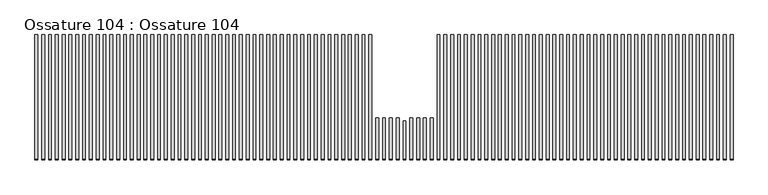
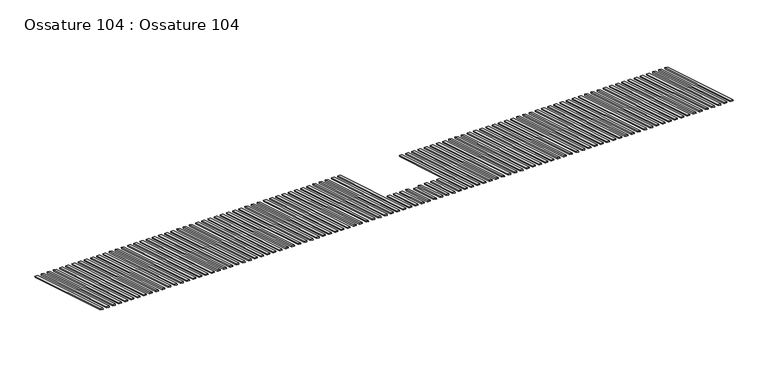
"""IFC4 building model written with IfcOpenShell, lengths in millimetres: beam geometry, Ossature 104 : Ossature 104."""

from ifc_helpers import new_model, si_unit, frame, origin, place, context, project, spatial, polyline, outline, extrude, source, transform, mapped, element, save


def ossature_104_ossature_104_4524d998(model_context):
    return source(origin(), model_context, "Body", "SweptSolid", [
        extrude(outline(polyline([(712.8, 0.0), (712.8, -1518.3275364), (612.8, -1518.3275364), (612.8, 0.0), (712.8, 0.0)])), frame((14593.4466393, 3518.0421613, 9459.0636668), z_axis=(0.0, 0.28734788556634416, 0.9578262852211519), x_axis=(-1.0, 0.0, 0.0)), (0.0, 0.0, 1.0), 40.0),
        extrude(outline(polyline([(712.8, 0.0), (712.8, -1518.3275364), (612.8, -1518.3275364), (612.8, 0.0), (712.8, 0.0)])), frame((14355.6466393, 3518.0421613, 9459.0636668), z_axis=(0.0, 0.28734788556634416, 0.9578262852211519), x_axis=(-1.0, 0.0, 0.0)), (0.0, 0.0, 1.0), 40.0),
        extrude(outline(polyline([(712.8, 0.0), (712.8, -1518.3275364), (612.8, -1518.3275364), (612.8, 0.0), (712.8, 0.0)])), frame((14117.8466393, 3518.0421613, 9459.0636668), z_axis=(0.0, 0.28734788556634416, 0.9578262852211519), x_axis=(-1.0, 0.0, 0.0)), (0.0, 0.0, 1.0), 40.0),
        extrude(outline(polyline([(712.8, 0.0), (712.8, -1518.3275364), (612.8, -1518.3275364), (612.8, 0.0), (712.8, 0.0)])), frame((13880.0466393, 3518.0421613, 9459.0636668), z_axis=(0.0, 0.28734788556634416, 0.9578262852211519), x_axis=(-1.0, 0.0, 0.0)), (0.0, 0.0, 1.0), 40.0),
        extrude(outline(polyline([(712.8, 0.0), (712.8, -1402.7470143), (612.8, -1402.7470143), (612.8, 0.0), (712.8, 0.0)])), frame((13642.2466393, 3518.0421613, 9459.0636668), z_axis=(0.0, 0.28734788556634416, 0.9578262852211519), x_axis=(-1.0, 0.0, 0.0)), (0.0, 0.0, 1.0), 40.0),
        extrude(outline(polyline([(712.8, 0.0), (712.8, -1518.3275364), (612.8, -1518.3275364), (612.8, 0.0), (712.8, 0.0)])), frame((13404.4466393, 3518.0421613, 9459.0636668), z_axis=(0.0, 0.28734788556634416, 0.9578262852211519), x_axis=(-1.0, 0.0, 0.0)), (0.0, 0.0, 1.0), 40.0),
        extrude(outline(polyline([(712.8, 0.0), (712.8, -1518.3275364), (612.8, -1518.3275364), (612.8, 0.0), (712.8, 0.0)])), frame((13166.6466393, 3518.0421613, 9459.0636668), z_axis=(0.0, 0.28734788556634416, 0.9578262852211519), x_axis=(-1.0, 0.0, 0.0)), (0.0, 0.0, 1.0), 40.0),
        extrude(outline(polyline([(712.8, 0.0), (712.8, -1518.3275364), (612.8, -1518.3275364), (612.8, 0.0), (712.8, 0.0)])), frame((12928.8466393, 3518.0421613, 9459.0636668), z_axis=(0.0, 0.28734788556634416, 0.9578262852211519), x_axis=(-1.0, 0.0, 0.0)), (0.0, 0.0, 1.0), 40.0),
        extrude(outline(polyline([(712.8, 0.0), (712.8, -1518.3275364), (612.8, -1518.3275364), (612.8, 0.0), (712.8, 0.0)])), frame((12691.0466393, 3518.0421613, 9459.0636668), z_axis=(0.0, 0.28734788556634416, 0.9578262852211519), x_axis=(-1.0, 0.0, 0.0)), (0.0, 0.0, 1.0), 40.0),
        extrude(outline(polyline([(712.8, 0.0), (712.8, -4549.8855766), (612.8, -4549.8855766), (612.8, 0.0), (712.8, 0.0)])), frame((25056.6466393, 3518.0421613, 9459.0636668), z_axis=(0.0, 0.28734788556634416, 0.9578262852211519), x_axis=(-1.0, 0.0, 0.0)), (0.0, 0.0, 1.0), 40.0),
        extrude(outline(polyline([(712.8, 0.0), (712.8, -4549.8855766), (612.8, -4549.8855766), (612.8, 0.0), (712.8, 0.0)])), frame((24818.8466393, 3518.0421613, 9459.0636668), z_axis=(0.0, 0.28734788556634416, 0.9578262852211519), x_axis=(-1.0, 0.0, 0.0)), (0.0, 0.0, 1.0), 40.0),
        extrude(outline(polyline([(712.8, 0.0), (712.8, -4549.8855766), (612.8, -4549.8855766), (612.8, 0.0), (712.8, 0.0)])), frame((24581.0466393, 3518.0421613, 9459.0636668), z_axis=(0.0, 0.28734788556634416, 0.9578262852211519), x_axis=(-1.0, 0.0, 0.0)), (0.0, 0.0, 1.0), 40.0),
        extrude(outline(polyline([(712.8, 0.0), (712.8, -4549.8855766), (612.8, -4549.8855766), (612.8, 0.0), (712.8, 0.0)])), frame((24343.2466393, 3518.0421613, 9459.0636668), z_axis=(0.0, 0.28734788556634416, 0.9578262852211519), x_axis=(-1.0, 0.0, 0.0)), (0.0, 0.0, 1.0), 40.0),
        extrude(outline(polyline([(712.8, 0.0), (712.8, -4549.8855766), (612.8, -4549.8855766), (612.8, 0.0), (712.8, 0.0)])), frame((24105.4466393, 3518.0421613, 9459.0636668), z_axis=(0.0, 0.28734788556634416, 0.9578262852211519), x_axis=(-1.0, 0.0, 0.0)), (0.0, 0.0, 1.0), 40.0),
        extrude(outline(polyline([(712.8, 0.0), (712.8, -4549.8855766), (612.8, -4549.8855766), (612.8, 0.0), (712.8, 0.0)])), frame((23867.6466393, 3518.0421613, 9459.0636668), z_axis=(0.0, 0.28734788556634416, 0.9578262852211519), x_axis=(-1.0, 0.0, 0.0)), (0.0, 0.0, 1.0), 40.0),
        extrude(outline(polyline([(712.8, 0.0), (712.8, -4549.8855766), (612.8, -4549.8855766), (612.8, 0.0), (712.8, 0.0)])), frame((23629.8466393, 3518.0421613, 9459.0636668), z_axis=(0.0, 0.28734788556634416, 0.9578262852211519), x_axis=(-1.0, 0.0, 0.0)), (0.0, 0.0, 1.0), 40.0),
        extrude(outline(polyline([(712.8, 0.0), (712.8, -4549.8855766), (612.8, -4549.8855766), (612.8, 0.0), (712.8, 0.0)])), frame((23392.0466393, 3518.0421613, 9459.0636668), z_axis=(0.0, 0.28734788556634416, 0.9578262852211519), x_axis=(-1.0, 0.0, 0.0)), (0.0, 0.0, 1.0), 40.0),
        extrude(outline(polyline([(712.8, 0.0), (712.8, -4549.8855766), (612.8, -4549.8855766), (612.8, 0.0), (712.8, 0.0)])), frame((23154.2466393, 3518.0421613, 9459.0636668), z_axis=(0.0, 0.28734788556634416, 0.9578262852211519), x_axis=(-1.0, 0.0, 0.0)), (0.0, 0.0, 1.0), 40.0),
        extrude(outline(polyline([(712.8, 0.0), (712.8, -4549.8855766), (612.8, -4549.8855766), (612.8, 0.0), (712.8, 0.0)])), frame((22916.4466393, 3518.0421613, 9459.0636668), z_axis=(0.0, 0.28734788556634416, 0.9578262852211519), x_axis=(-1.0, 0.0, 0.0)), (0.0, 0.0, 1.0), 40.0),
        extrude(outline(polyline([(712.8, 0.0), (712.8, -4549.8855766), (612.8, -4549.8855766), (612.8, 0.0), (712.8, 0.0)])), frame((22678.6466393, 3518.0421613, 9459.0636668), z_axis=(0.0, 0.28734788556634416, 0.9578262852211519), x_axis=(-1.0, 0.0, 0.0)), (0.0, 0.0, 1.0), 40.0),
        extrude(outline(polyline([(712.8, 0.0), (712.8, -4549.8855766), (612.8, -4549.8855766), (612.8, 0.0), (712.8, 0.0)])), frame((22440.8466393, 3518.0421613, 9459.0636668), z_axis=(0.0, 0.28734788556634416, 0.9578262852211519), x_axis=(-1.0, 0.0, 0.0)), (0.0, 0.0, 1.0), 40.0),
        extrude(outline(polyline([(712.8, 0.0), (712.8, -4549.8855766), (612.8, -4549.8855766), (612.8, 0.0), (712.8, 0.0)])), frame((22203.0466393, 3518.0421613, 9459.0636668), z_axis=(0.0, 0.28734788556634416, 0.9578262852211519), x_axis=(-1.0, 0.0, 0.0)), (0.0, 0.0, 1.0), 40.0),
        extrude(outline(polyline([(712.8, 0.0), (712.8, -4549.8855766), (612.8, -4549.8855766), (612.8, 0.0), (712.8, 0.0)])), frame((21965.2466393, 3518.0421613, 9459.0636668), z_axis=(0.0, 0.28734788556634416, 0.9578262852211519), x_axis=(-1.0, 0.0, 0.0)), (0.0, 0.0, 1.0), 40.0),
        extrude(outline(polyline([(712.8, 0.0), (712.8, -4549.8855766), (612.8, -4549.8855766), (612.8, 0.0), (712.8, 0.0)])), frame((21727.4466393, 3518.0421613, 9459.0636668), z_axis=(0.0, 0.28734788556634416, 0.9578262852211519), x_axis=(-1.0, 0.0, 0.0)), (0.0, 0.0, 1.0), 40.0),
        extrude(outline(polyline([(712.8, 0.0), (712.8, -4549.8855766), (612.8, -4549.8855766), (612.8, 0.0), (712.8, 0.0)])), frame((21489.6466393, 3518.0421613, 9459.0636668), z_axis=(0.0, 0.28734788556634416, 0.9578262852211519), x_axis=(-1.0, 0.0, 0.0)), (0.0, 0.0, 1.0), 40.0),
        extrude(outline(polyline([(712.8, 0.0), (712.8, -4549.8855766), (612.8, -4549.8855766), (612.8, 0.0), (712.8, 0.0)])), frame((21251.8466393, 3518.0421613, 9459.0636668), z_axis=(0.0, 0.28734788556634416, 0.9578262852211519), x_axis=(-1.0, 0.0, 0.0)), (0.0, 0.0, 1.0), 40.0),
        extrude(outline(polyline([(712.8, 0.0), (712.8, -4549.8855766), (612.8, -4549.8855766), (612.8, 0.0), (712.8, 0.0)])), frame((21014.0466393, 3518.0421613, 9459.0636668), z_axis=(0.0, 0.28734788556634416, 0.9578262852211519), x_axis=(-1.0, 0.0, 0.0)), (0.0, 0.0, 1.0), 40.0),
        extrude(outline(polyline([(712.8, 0.0), (712.8, -4549.8855766), (612.8, -4549.8855766), (612.8, 0.0), (712.8, 0.0)])), frame((20776.2466393, 3518.0421613, 9459.0636668), z_axis=(0.0, 0.28734788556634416, 0.9578262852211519), x_axis=(-1.0, 0.0, 0.0)), (0.0, 0.0, 1.0), 40.0),
        extrude(outline(polyline([(712.8, 0.0), (712.8, -4549.8855766), (612.8, -4549.8855766), (612.8, 0.0), (712.8, 0.0)])), frame((20538.4466393, 3518.0421613, 9459.0636668), z_axis=(0.0, 0.28734788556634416, 0.9578262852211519), x_axis=(-1.0, 0.0, 0.0)), (0.0, 0.0, 1.0), 40.0),
        extrude(outline(polyline([(712.8, 0.0), (712.8, -4549.8855766), (612.8, -4549.8855766), (612.8, 0.0), (712.8, 0.0)])), frame((20300.6466393, 3518.0421613, 9459.0636668), z_axis=(0.0, 0.28734788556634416, 0.9578262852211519), x_axis=(-1.0, 0.0, 0.0)), (0.0, 0.0, 1.0), 40.0),
        extrude(outline(polyline([(712.8, 0.0), (712.8, -4549.8855766), (612.8, -4549.8855766), (612.8, 0.0), (712.8, 0.0)])), frame((20062.8466393, 3518.0421613, 9459.0636668), z_axis=(0.0, 0.28734788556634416, 0.9578262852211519), x_axis=(-1.0, 0.0, 0.0)), (0.0, 0.0, 1.0), 40.0),
        extrude(outline(polyline([(712.8, 0.0), (712.8, -4549.8855766), (612.8, -4549.8855766), (612.8, 0.0), (712.8, 0.0)])), frame((19825.0466393, 3518.0421613, 9459.0636668), z_axis=(0.0, 0.28734788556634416, 0.9578262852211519), x_axis=(-1.0, 0.0, 0.0)), (0.0, 0.0, 1.0), 40.0),
        extrude(outline(polyline([(712.8, 0.0), (712.8, -4549.8855766), (612.8, -4549.8855766), (612.8, 0.0), (712.8, 0.0)])), frame((19587.2466393, 3518.0421613, 9459.0636668), z_axis=(0.0, 0.28734788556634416, 0.9578262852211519), x_axis=(-1.0, 0.0, 0.0)), (0.0, 0.0, 1.0), 40.0),
        extrude(outline(polyline([(712.8, 0.0), (712.8, -4549.8855766), (612.8, -4549.8855766), (612.8, 0.0), (712.8, 0.0)])), frame((19349.4466393, 3518.0421613, 9459.0636668), z_axis=(0.0, 0.28734788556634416, 0.9578262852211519), x_axis=(-1.0, 0.0, 0.0)), (0.0, 0.0, 1.0), 40.0),
        extrude(outline(polyline([(712.8, 0.0), (712.8, -4549.8855766), (612.8, -4549.8855766), (612.8, 0.0), (712.8, 0.0)])), frame((19111.6466393, 3518.0421613, 9459.0636668), z_axis=(0.0, 0.28734788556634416, 0.9578262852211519), x_axis=(-1.0, 0.0, 0.0)), (0.0, 0.0, 1.0), 40.0),
        extrude(outline(polyline([(712.8, 0.0), (712.8, -4549.8855766), (612.8, -4549.8855766), (612.8, 0.0), (712.8, 0.0)])), frame((18873.8466393, 3518.0421613, 9459.0636668), z_axis=(0.0, 0.28734788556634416, 0.9578262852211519), x_axis=(-1.0, 0.0, 0.0)), (0.0, 0.0, 1.0), 40.0),
        extrude(outline(polyline([(712.8, 0.0), (712.8, -4549.8855766), (612.8, -4549.8855766), (612.8, 0.0), (712.8, 0.0)])), frame((18636.0466393, 3518.0421613, 9459.0636668), z_axis=(0.0, 0.28734788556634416, 0.9578262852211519), x_axis=(-1.0, 0.0, 0.0)), (0.0, 0.0, 1.0), 40.0),
        extrude(outline(polyline([(712.8, 0.0), (712.8, -4549.8855766), (612.8, -4549.8855766), (612.8, 0.0), (712.8, 0.0)])), frame((18398.2466393, 3518.0421613, 9459.0636668), z_axis=(0.0, 0.28734788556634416, 0.9578262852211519), x_axis=(-1.0, 0.0, 0.0)), (0.0, 0.0, 1.0), 40.0),
        extrude(outline(polyline([(712.8, 0.0), (712.8, -4549.8855766), (612.8, -4549.8855766), (612.8, 0.0), (712.8, 0.0)])), frame((18160.4466393, 3518.0421613, 9459.0636668), z_axis=(0.0, 0.28734788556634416, 0.9578262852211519), x_axis=(-1.0, 0.0, 0.0)), (0.0, 0.0, 1.0), 40.0),
        extrude(outline(polyline([(712.8, 0.0), (712.8, -4549.8855766), (612.8, -4549.8855766), (612.8, 0.0), (712.8, 0.0)])), frame((17922.6466393, 3518.0421613, 9459.0636668), z_axis=(0.0, 0.28734788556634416, 0.9578262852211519), x_axis=(-1.0, 0.0, 0.0)), (0.0, 0.0, 1.0), 40.0),
        extrude(outline(polyline([(712.8, 0.0), (712.8, -4549.8855766), (612.8, -4549.8855766), (612.8, 0.0), (712.8, 0.0)])), frame((17684.8466393, 3518.0421613, 9459.0636668), z_axis=(0.0, 0.28734788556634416, 0.9578262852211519), x_axis=(-1.0, 0.0, 0.0)), (0.0, 0.0, 1.0), 40.0),
        extrude(outline(polyline([(712.8, 0.0), (712.8, -4549.8855766), (612.8, -4549.8855766), (612.8, 0.0), (712.8, 0.0)])), frame((17447.0466393, 3518.0421613, 9459.0636668), z_axis=(0.0, 0.28734788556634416, 0.9578262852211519), x_axis=(-1.0, 0.0, 0.0)), (0.0, 0.0, 1.0), 40.0),
        extrude(outline(polyline([(712.8, 0.0), (712.8, -4549.8855766), (612.8, -4549.8855766), (612.8, 0.0), (712.8, 0.0)])), frame((17209.2466393, 3518.0421613, 9459.0636668), z_axis=(0.0, 0.28734788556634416, 0.9578262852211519), x_axis=(-1.0, 0.0, 0.0)), (0.0, 0.0, 1.0), 40.0),
        extrude(outline(polyline([(712.8, 0.0), (712.8, -4549.8855766), (612.8, -4549.8855766), (612.8, 0.0), (712.8, 0.0)])), frame((16971.4466393, 3518.0421613, 9459.0636668), z_axis=(0.0, 0.28734788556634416, 0.9578262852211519), x_axis=(-1.0, 0.0, 0.0)), (0.0, 0.0, 1.0), 40.0),
        extrude(outline(polyline([(712.8, 0.0), (712.8, -4549.8855766), (612.8, -4549.8855766), (612.8, 0.0), (712.8, 0.0)])), frame((16733.6466393, 3518.0421613, 9459.0636668), z_axis=(0.0, 0.28734788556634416, 0.9578262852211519), x_axis=(-1.0, 0.0, 0.0)), (0.0, 0.0, 1.0), 40.0),
        extrude(outline(polyline([(712.8, 0.0), (712.8, -4549.8855766), (612.8, -4549.8855766), (612.8, 0.0), (712.8, 0.0)])), frame((16495.8466393, 3518.0421613, 9459.0636668), z_axis=(0.0, 0.28734788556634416, 0.9578262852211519), x_axis=(-1.0, 0.0, 0.0)), (0.0, 0.0, 1.0), 40.0),
        extrude(outline(polyline([(712.8, 0.0), (712.8, -4549.8855766), (612.8, -4549.8855766), (612.8, 0.0), (712.8, 0.0)])), frame((16258.0466393, 3518.0421613, 9459.0636668), z_axis=(0.0, 0.28734788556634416, 0.9578262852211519), x_axis=(-1.0, 0.0, 0.0)), (0.0, 0.0, 1.0), 40.0),
        extrude(outline(polyline([(712.8, 0.0), (712.8, -4549.8855766), (612.8, -4549.8855766), (612.8, 0.0), (712.8, 0.0)])), frame((16020.2466393, 3518.0421613, 9459.0636668), z_axis=(0.0, 0.28734788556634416, 0.9578262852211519), x_axis=(-1.0, 0.0, 0.0)), (0.0, 0.0, 1.0), 40.0),
        extrude(outline(polyline([(712.8, 0.0), (712.8, -4549.8855766), (612.8, -4549.8855766), (612.8, 0.0), (712.8, 0.0)])), frame((15782.4466393, 3518.0421613, 9459.0636668), z_axis=(0.0, 0.28734788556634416, 0.9578262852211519), x_axis=(-1.0, 0.0, 0.0)), (0.0, 0.0, 1.0), 40.0),
        extrude(outline(polyline([(712.8, 0.0), (712.8, -4549.8855766), (612.8, -4549.8855766), (612.8, 0.0), (712.8, 0.0)])), frame((15544.6466393, 3518.0421613, 9459.0636668), z_axis=(0.0, 0.28734788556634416, 0.9578262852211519), x_axis=(-1.0, 0.0, 0.0)), (0.0, 0.0, 1.0), 40.0),
        extrude(outline(polyline([(712.8, 0.0), (712.8, -4549.8855766), (612.8, -4549.8855766), (612.8, 0.0), (712.8, 0.0)])), frame((15306.8466393, 3518.0421613, 9459.0636668), z_axis=(0.0, 0.28734788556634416, 0.9578262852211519), x_axis=(-1.0, 0.0, 0.0)), (0.0, 0.0, 1.0), 40.0),
        extrude(outline(polyline([(712.8, 0.0), (712.8, -4549.8855766), (612.8, -4549.8855766), (612.8, 0.0), (712.8, 0.0)])), frame((15069.0466393, 3518.0421613, 9459.0636668), z_axis=(0.0, 0.28734788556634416, 0.9578262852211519), x_axis=(-1.0, 0.0, 0.0)), (0.0, 0.0, 1.0), 40.0),
        extrude(outline(polyline([(712.8, 0.0), (712.8, -4549.8855766), (612.8, -4549.8855766), (612.8, 0.0), (712.8, 0.0)])), frame((14831.2466393, 3518.0421613, 9459.0636668), z_axis=(0.0, 0.28734788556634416, 0.9578262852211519), x_axis=(-1.0, 0.0, 0.0)), (0.0, 0.0, 1.0), 40.0),
        extrude(outline(polyline([(712.8, 0.0), (712.8, -4549.8855766), (612.8, -4549.8855766), (612.8, 0.0), (712.8, 0.0)])), frame((12453.2466393, 3518.0421613, 9459.0636668), z_axis=(0.0, 0.28734788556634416, 0.9578262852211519), x_axis=(-1.0, 0.0, 0.0)), (0.0, 0.0, 1.0), 40.0),
        extrude(outline(polyline([(712.8, 0.0), (712.8, -4549.8855766), (612.8, -4549.8855766), (612.8, 0.0), (712.8, 0.0)])), frame((12215.4466393, 3518.0421613, 9459.0636668), z_axis=(0.0, 0.28734788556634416, 0.9578262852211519), x_axis=(-1.0, 0.0, 0.0)), (0.0, 0.0, 1.0), 40.0),
        extrude(outline(polyline([(712.8, 0.0), (712.8, -4549.8855766), (612.8, -4549.8855766), (612.8, 0.0), (712.8, 0.0)])), frame((11977.6466393, 3518.0421613, 9459.0636668), z_axis=(0.0, 0.28734788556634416, 0.9578262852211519), x_axis=(-1.0, 0.0, 0.0)), (0.0, 0.0, 1.0), 40.0),
        extrude(outline(polyline([(712.8, 0.0), (712.8, -4549.8855766), (612.8, -4549.8855766), (612.8, 0.0), (712.8, 0.0)])), frame((11739.8466393, 3518.0421613, 9459.0636668), z_axis=(0.0, 0.28734788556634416, 0.9578262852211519), x_axis=(-1.0, 0.0, 0.0)), (0.0, 0.0, 1.0), 40.0),
        extrude(outline(polyline([(712.8, 0.0), (712.8, -4549.8855766), (612.8, -4549.8855766), (612.8, 0.0), (712.8, 0.0)])), frame((11502.0466393, 3518.0421613, 9459.0636668), z_axis=(0.0, 0.28734788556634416, 0.9578262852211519), x_axis=(-1.0, 0.0, 0.0)), (0.0, 0.0, 1.0), 40.0),
        extrude(outline(polyline([(712.8, 0.0), (712.8, -4549.8855766), (612.8, -4549.8855766), (612.8, 0.0), (712.8, 0.0)])), frame((11264.2466393, 3518.0421613, 9459.0636668), z_axis=(0.0, 0.28734788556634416, 0.9578262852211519), x_axis=(-1.0, 0.0, 0.0)), (0.0, 0.0, 1.0), 40.0),
        extrude(outline(polyline([(712.8, 0.0), (712.8, -4549.8855766), (612.8, -4549.8855766), (612.8, 0.0), (712.8, 0.0)])), frame((11026.4466393, 3518.0421613, 9459.0636668), z_axis=(0.0, 0.28734788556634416, 0.9578262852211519), x_axis=(-1.0, 0.0, 0.0)), (0.0, 0.0, 1.0), 40.0),
        extrude(outline(polyline([(712.8, 0.0), (712.8, -4549.8855766), (612.8, -4549.8855766), (612.8, 0.0), (712.8, 0.0)])), frame((10788.6466393, 3518.0421613, 9459.0636668), z_axis=(0.0, 0.28734788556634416, 0.9578262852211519), x_axis=(-1.0, 0.0, 0.0)), (0.0, 0.0, 1.0), 40.0),
        extrude(outline(polyline([(712.8, 0.0), (712.8, -4549.8855766), (612.8, -4549.8855766), (612.8, 0.0), (712.8, 0.0)])), frame((10550.8466393, 3518.0421613, 9459.0636668), z_axis=(0.0, 0.28734788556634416, 0.9578262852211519), x_axis=(-1.0, 0.0, 0.0)), (0.0, 0.0, 1.0), 40.0),
        extrude(outline(polyline([(712.8, 0.0), (712.8, -4549.8855766), (612.8, -4549.8855766), (612.8, 0.0), (712.8, 0.0)])), frame((10313.0466393, 3518.0421613, 9459.0636668), z_axis=(0.0, 0.28734788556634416, 0.9578262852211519), x_axis=(-1.0, 0.0, 0.0)), (0.0, 0.0, 1.0), 40.0),
        extrude(outline(polyline([(712.8, 0.0), (712.8, -4549.8855766), (612.8, -4549.8855766), (612.8, 0.0), (712.8, 0.0)])), frame((10075.2466393, 3518.0421613, 9459.0636668), z_axis=(0.0, 0.28734788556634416, 0.9578262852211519), x_axis=(-1.0, 0.0, 0.0)), (0.0, 0.0, 1.0), 40.0),
        extrude(outline(polyline([(712.8, 0.0), (712.8, -4549.8855766), (612.8, -4549.8855766), (612.8, 0.0), (712.8, 0.0)])), frame((9837.4466393, 3518.0421613, 9459.0636668), z_axis=(0.0, 0.28734788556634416, 0.9578262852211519), x_axis=(-1.0, 0.0, 0.0)), (0.0, 0.0, 1.0), 40.0),
        extrude(outline(polyline([(712.8, 0.0), (712.8, -4549.8855766), (612.8, -4549.8855766), (612.8, 0.0), (712.8, 0.0)])), frame((9599.6466393, 3518.0421613, 9459.0636668), z_axis=(0.0, 0.28734788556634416, 0.9578262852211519), x_axis=(-1.0, 0.0, 0.0)), (0.0, 0.0, 1.0), 40.0),
        extrude(outline(polyline([(712.8, 0.0), (712.8, -4549.8855766), (612.8, -4549.8855766), (612.8, 0.0), (712.8, 0.0)])), frame((9361.8466393, 3518.0421613, 9459.0636668), z_axis=(0.0, 0.28734788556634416, 0.9578262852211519), x_axis=(-1.0, 0.0, 0.0)), (0.0, 0.0, 1.0), 40.0),
        extrude(outline(polyline([(712.8, 0.0), (712.8, -4549.8855766), (612.8, -4549.8855766), (612.8, 0.0), (712.8, 0.0)])), frame((9124.0466393, 3518.0421613, 9459.0636668), z_axis=(0.0, 0.28734788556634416, 0.9578262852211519), x_axis=(-1.0, 0.0, 0.0)), (0.0, 0.0, 1.0), 40.0),
        extrude(outline(polyline([(712.8, 0.0), (712.8, -4549.8855766), (612.8, -4549.8855766), (612.8, 0.0), (712.8, 0.0)])), frame((8886.2466393, 3518.0421613, 9459.0636668), z_axis=(0.0, 0.28734788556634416, 0.9578262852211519), x_axis=(-1.0, 0.0, 0.0)), (0.0, 0.0, 1.0), 40.0),
        extrude(outline(polyline([(712.8, 0.0), (712.8, -4549.8855766), (612.8, -4549.8855766), (612.8, 0.0), (712.8, 0.0)])), frame((8648.4466393, 3518.0421613, 9459.0636668), z_axis=(0.0, 0.28734788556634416, 0.9578262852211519), x_axis=(-1.0, 0.0, 0.0)), (0.0, 0.0, 1.0), 40.0),
        extrude(outline(polyline([(712.8, 0.0), (712.8, -4549.8855766), (612.8, -4549.8855766), (612.8, 0.0), (712.8, 0.0)])), frame((8410.6466393, 3518.0421613, 9459.0636668), z_axis=(0.0, 0.28734788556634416, 0.9578262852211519), x_axis=(-1.0, 0.0, 0.0)), (0.0, 0.0, 1.0), 40.0),
        extrude(outline(polyline([(712.8, 0.0), (712.8, -4549.8855766), (612.8, -4549.8855766), (612.8, 0.0), (712.8, 0.0)])), frame((8172.8466393, 3518.0421613, 9459.0636668), z_axis=(0.0, 0.28734788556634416, 0.9578262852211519), x_axis=(-1.0, 0.0, 0.0)), (0.0, 0.0, 1.0), 40.0),
        extrude(outline(polyline([(712.8, 0.0), (712.8, -4549.8855766), (612.8, -4549.8855766), (612.8, 0.0), (712.8, 0.0)])), frame((7935.0466393, 3518.0421613, 9459.0636668), z_axis=(0.0, 0.28734788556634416, 0.9578262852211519), x_axis=(-1.0, 0.0, 0.0)), (0.0, 0.0, 1.0), 40.0),
        extrude(outline(polyline([(712.8, 0.0), (712.8, -4549.8855766), (612.8, -4549.8855766), (612.8, 0.0), (712.8, 0.0)])), frame((7697.2466393, 3518.0421613, 9459.0636668), z_axis=(0.0, 0.28734788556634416, 0.9578262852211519), x_axis=(-1.0, 0.0, 0.0)), (0.0, 0.0, 1.0), 40.0),
        extrude(outline(polyline([(712.8, 0.0), (712.8, -4549.8855766), (612.8, -4549.8855766), (612.8, 0.0), (712.8, 0.0)])), frame((7459.4466393, 3518.0421613, 9459.0636668), z_axis=(0.0, 0.28734788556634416, 0.9578262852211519), x_axis=(-1.0, 0.0, 0.0)), (0.0, 0.0, 1.0), 40.0),
        extrude(outline(polyline([(712.8, 0.0), (712.8, -4549.8855766), (612.8, -4549.8855766), (612.8, 0.0), (712.8, 0.0)])), frame((7221.6466393, 3518.0421613, 9459.0636668), z_axis=(0.0, 0.28734788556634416, 0.9578262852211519), x_axis=(-1.0, 0.0, 0.0)), (0.0, 0.0, 1.0), 40.0),
        extrude(outline(polyline([(712.8, 0.0), (712.8, -4549.8855766), (612.8, -4549.8855766), (612.8, 0.0), (712.8, 0.0)])), frame((6983.8466393, 3518.0421613, 9459.0636668), z_axis=(0.0, 0.28734788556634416, 0.9578262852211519), x_axis=(-1.0, 0.0, 0.0)), (0.0, 0.0, 1.0), 40.0),
        extrude(outline(polyline([(712.8, 0.0), (712.8, -4549.8855766), (612.8, -4549.8855766), (612.8, 0.0), (712.8, 0.0)])), frame((6746.0466393, 3518.0421613, 9459.0636668), z_axis=(0.0, 0.28734788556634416, 0.9578262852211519), x_axis=(-1.0, 0.0, 0.0)), (0.0, 0.0, 1.0), 40.0),
        extrude(outline(polyline([(712.8, 0.0), (712.8, -4549.8855766), (612.8, -4549.8855766), (612.8, 0.0), (712.8, 0.0)])), frame((6508.2466393, 3518.0421613, 9459.0636668), z_axis=(0.0, 0.28734788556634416, 0.9578262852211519), x_axis=(-1.0, 0.0, 0.0)), (0.0, 0.0, 1.0), 40.0),
        extrude(outline(polyline([(712.8, 0.0), (712.8, -4549.8855766), (612.8, -4549.8855766), (612.8, 0.0), (712.8, 0.0)])), frame((6270.4466393, 3518.0421613, 9459.0636668), z_axis=(0.0, 0.28734788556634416, 0.9578262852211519), x_axis=(-1.0, 0.0, 0.0)), (0.0, 0.0, 1.0), 40.0),
        extrude(outline(polyline([(712.8, 0.0), (712.8, -4549.8855766), (612.8, -4549.8855766), (612.8, 0.0), (712.8, 0.0)])), frame((6032.6466393, 3518.0421613, 9459.0636668), z_axis=(0.0, 0.28734788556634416, 0.9578262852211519), x_axis=(-1.0, 0.0, 0.0)), (0.0, 0.0, 1.0), 40.0),
        extrude(outline(polyline([(712.8, 0.0), (712.8, -4549.8855766), (612.8, -4549.8855766), (612.8, 0.0), (712.8, 0.0)])), frame((5794.8466393, 3518.0421613, 9459.0636668), z_axis=(0.0, 0.28734788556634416, 0.9578262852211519), x_axis=(-1.0, 0.0, 0.0)), (0.0, 0.0, 1.0), 40.0),
        extrude(outline(polyline([(712.8, 0.0), (712.8, -4549.8855766), (612.8, -4549.8855766), (612.8, 0.0), (712.8, 0.0)])), frame((5557.0466393, 3518.0421613, 9459.0636668), z_axis=(0.0, 0.28734788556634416, 0.9578262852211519), x_axis=(-1.0, 0.0, 0.0)), (0.0, 0.0, 1.0), 40.0),
        extrude(outline(polyline([(712.8, 0.0), (712.8, -4549.8855766), (612.8, -4549.8855766), (612.8, 0.0), (712.8, 0.0)])), frame((5319.2466393, 3518.0421613, 9459.0636668), z_axis=(0.0, 0.28734788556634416, 0.9578262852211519), x_axis=(-1.0, 0.0, 0.0)), (0.0, 0.0, 1.0), 40.0),
        extrude(outline(polyline([(712.8, 0.0), (712.8, -4549.8855766), (612.8, -4549.8855766), (612.8, 0.0), (712.8, 0.0)])), frame((5081.4466393, 3518.0421613, 9459.0636668), z_axis=(0.0, 0.28734788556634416, 0.9578262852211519), x_axis=(-1.0, 0.0, 0.0)), (0.0, 0.0, 1.0), 40.0),
        extrude(outline(polyline([(712.8, 0.0), (712.8, -4549.8855766), (612.8, -4549.8855766), (612.8, 0.0), (712.8, 0.0)])), frame((4843.6466393, 3518.0421613, 9459.0636668), z_axis=(0.0, 0.28734788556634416, 0.9578262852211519), x_axis=(-1.0, 0.0, 0.0)), (0.0, 0.0, 1.0), 40.0),
        extrude(outline(polyline([(712.8, 0.0), (712.8, -4549.8855766), (612.8, -4549.8855766), (612.8, 0.0), (712.8, 0.0)])), frame((4605.8466393, 3518.0421613, 9459.0636668), z_axis=(0.0, 0.28734788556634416, 0.9578262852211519), x_axis=(-1.0, 0.0, 0.0)), (0.0, 0.0, 1.0), 40.0),
        extrude(outline(polyline([(712.8, 0.0), (712.8, -4549.8855766), (612.8, -4549.8855766), (612.8, 0.0), (712.8, 0.0)])), frame((4368.0466393, 3518.0421613, 9459.0636668), z_axis=(0.0, 0.28734788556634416, 0.9578262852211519), x_axis=(-1.0, 0.0, 0.0)), (0.0, 0.0, 1.0), 40.0),
        extrude(outline(polyline([(712.8, 0.0), (712.8, -4549.8855766), (612.8, -4549.8855766), (612.8, 0.0), (712.8, 0.0)])), frame((4130.2466393, 3518.0421613, 9459.0636668), z_axis=(0.0, 0.28734788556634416, 0.9578262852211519), x_axis=(-1.0, 0.0, 0.0)), (0.0, 0.0, 1.0), 40.0),
        extrude(outline(polyline([(712.8, 0.0), (712.8, -4549.8855766), (612.8, -4549.8855766), (612.8, 0.0), (712.8, 0.0)])), frame((3892.4466393, 3518.0421613, 9459.0636668), z_axis=(0.0, 0.28734788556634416, 0.9578262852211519), x_axis=(-1.0, 0.0, 0.0)), (0.0, 0.0, 1.0), 40.0),
        extrude(outline(polyline([(712.8, 0.0), (712.8, -4549.8855766), (612.8, -4549.8855766), (612.8, 0.0), (712.8, 0.0)])), frame((3654.6466393, 3518.0421613, 9459.0636668), z_axis=(0.0, 0.28734788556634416, 0.9578262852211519), x_axis=(-1.0, 0.0, 0.0)), (0.0, 0.0, 1.0), 40.0),
        extrude(outline(polyline([(712.8, 0.0), (712.8, -4549.8855766), (612.8, -4549.8855766), (612.8, 0.0), (712.8, 0.0)])), frame((3416.8466393, 3518.0421613, 9459.0636668), z_axis=(0.0, 0.28734788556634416, 0.9578262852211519), x_axis=(-1.0, 0.0, 0.0)), (0.0, 0.0, 1.0), 40.0),
        extrude(outline(polyline([(712.8, 0.0), (712.8, -4549.8855766), (612.8, -4549.8855766), (612.8, 0.0), (712.8, 0.0)])), frame((3179.0466393, 3518.0421613, 9459.0636668), z_axis=(0.0, 0.28734788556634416, 0.9578262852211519), x_axis=(-1.0, 0.0, 0.0)), (0.0, 0.0, 1.0), 40.0),
        extrude(outline(polyline([(712.8, 0.0), (712.8, -4549.8855766), (612.8, -4549.8855766), (612.8, 0.0), (712.8, 0.0)])), frame((2941.2466393, 3518.0421613, 9459.0636668), z_axis=(0.0, 0.28734788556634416, 0.9578262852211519), x_axis=(-1.0, 0.0, 0.0)), (0.0, 0.0, 1.0), 40.0),
        extrude(outline(polyline([(712.8, 0.0), (712.8, -4549.8855766), (612.8, -4549.8855766), (612.8, 0.0), (712.8, 0.0)])), frame((2703.4466393, 3518.0421613, 9459.0636668), z_axis=(0.0, 0.28734788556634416, 0.9578262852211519), x_axis=(-1.0, 0.0, 0.0)), (0.0, 0.0, 1.0), 40.0),
        extrude(outline(polyline([(712.8, 0.0), (712.8, -4549.8855766), (612.8, -4549.8855766), (612.8, 0.0), (712.8, 0.0)])), frame((2465.6466393, 3518.0421613, 9459.0636668), z_axis=(0.0, 0.28734788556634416, 0.9578262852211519), x_axis=(-1.0, 0.0, 0.0)), (0.0, 0.0, 1.0), 40.0),
        extrude(outline(polyline([(712.8, 0.0), (712.8, -4549.8855766), (612.8, -4549.8855766), (612.8, 0.0), (712.8, 0.0)])), frame((2227.8466393, 3518.0421613, 9459.0636668), z_axis=(0.0, 0.28734788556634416, 0.9578262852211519), x_axis=(-1.0, 0.0, 0.0)), (0.0, 0.0, 1.0), 40.0),
        extrude(outline(polyline([(712.8, 0.0), (712.8, -4549.8855766), (612.8, -4549.8855766), (612.8, 0.0), (712.8, 0.0)])), frame((1990.0466393, 3518.0421613, 9459.0636668), z_axis=(0.0, 0.28734788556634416, 0.9578262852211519), x_axis=(-1.0, 0.0, 0.0)), (0.0, 0.0, 1.0), 40.0),
        extrude(outline(polyline([(712.8, 0.0), (712.8, -4549.8855766), (612.8, -4549.8855766), (612.8, 0.0), (712.8, 0.0)])), frame((1752.2466393, 3518.0421613, 9459.0636668), z_axis=(0.0, 0.28734788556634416, 0.9578262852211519), x_axis=(-1.0, 0.0, 0.0)), (0.0, 0.0, 1.0), 40.0),
        extrude(outline(polyline([(712.8, 0.0), (712.8, -4549.8855766), (612.8, -4549.8855766), (612.8, 0.0), (712.8, 0.0)])), frame((1514.4466393, 3518.0421613, 9459.0636668), z_axis=(0.0, 0.28734788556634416, 0.9578262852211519), x_axis=(-1.0, 0.0, 0.0)), (0.0, 0.0, 1.0), 40.0),
        extrude(outline(polyline([(712.8, 0.0), (712.8, -4549.8855766), (612.8, -4549.8855766), (612.8, 0.0), (712.8, 0.0)])), frame((1276.6466393, 3518.0421613, 9459.0636668), z_axis=(0.0, 0.28734788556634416, 0.9578262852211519), x_axis=(-1.0, 0.0, 0.0)), (0.0, 0.0, 1.0), 40.0),
        extrude(outline(polyline([(712.8, 0.0), (712.8, -4549.8855766), (612.8, -4549.8855766), (612.8, 0.0), (712.8, 0.0)])), frame((1038.8466393, 3518.0421613, 9459.0636668), z_axis=(0.0, 0.28734788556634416, 0.9578262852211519), x_axis=(-1.0, 0.0, 0.0)), (0.0, 0.0, 1.0), 40.0),
        extrude(outline(polyline([(712.8, 0.0), (712.8, -4549.8855766), (612.8, -4549.8855766), (612.8, 0.0), (712.8, 0.0)])), frame((801.0466393, 3518.0421613, 9459.0636668), z_axis=(0.0, 0.28734788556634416, 0.9578262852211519), x_axis=(-1.0, 0.0, 0.0)), (0.0, 0.0, 1.0), 40.0),
    ])


if __name__ == "__main__":
    model = new_model("IFC4")
    model_context = context("Model", 3, world=origin())
    ifc_project = project(units=[si_unit("LENGTHUNIT", "METRE", prefix="MILLI")], contexts=[model_context])
    site = spatial("IfcSite", under=ifc_project)
    building = spatial("IfcBuilding", under=site)
    placement = place(None, origin())
    ossature_104_ossature_104_shape = ossature_104_ossature_104_4524d998(model_context)
    element("IfcBeam", 1, ObjectType="Ossature 104 : Ossature 104", at=placement, inside=building, context=model_context, shape_type="MappedRepresentation", body=[
        mapped(ossature_104_ossature_104_shape, transform((0.0, 0.0, 0.0), x_axis=(1.0, 0.0, 0.0), y_axis=(0.0, 1.0, 0.0), z_axis=(0.0, 0.0, 1.0))),
    ])
    save(model, "model.ifc")
